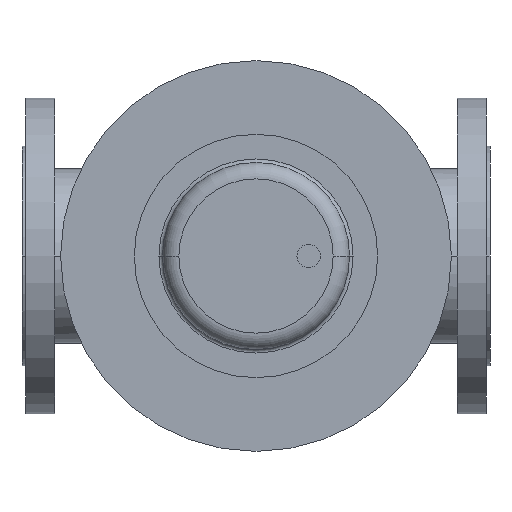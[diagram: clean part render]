
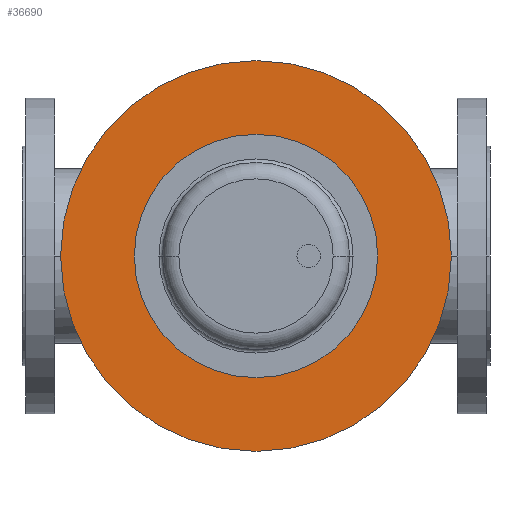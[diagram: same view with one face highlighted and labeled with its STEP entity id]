
A CAD part, front view. The second image highlights one B-rep face of the part: STEP entity #36690.
In plain terms, the highlighted planar face has unit normal (0, -1, 0).
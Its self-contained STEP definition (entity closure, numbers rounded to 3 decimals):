
#14880=CARTESIAN_POINT('',(200.,-457.12,0.));
#14890=DIRECTION('',(0.,-1.,0.));
#14900=DIRECTION('',(1.,0.,0.));
#14910=AXIS2_PLACEMENT_3D('',#14880,#14890,#14900);
#14920=CYLINDRICAL_SURFACE('',#14910,167.);
#14990=CARTESIAN_POINT('',(33.,-464.62,0.));
#15000=VERTEX_POINT('',#14990);
#15010=CARTESIAN_POINT('',(200.,-457.12,0.));
#15020=DIRECTION('',(0.,-1.,0.));
#15030=DIRECTION('',(1.,0.,0.));
#15040=AXIS2_PLACEMENT_3D('',#15010,#15020,#15030);
#15050=CYLINDRICAL_SURFACE('',#15040,167.);
#15280=CARTESIAN_POINT('',(367.,-464.62,0.));
#15290=VERTEX_POINT('',#15280);
#15330=CARTESIAN_POINT('',(200.,-464.62,0.));
#15340=DIRECTION('',(0.,1.,0.));
#15350=DIRECTION('',(1.,0.,0.));
#15360=AXIS2_PLACEMENT_3D('',#15330,#15340,#15350);
#15370=CIRCLE('',#15360,167.);
#15380=CARTESIAN_POINT('',(303.5,-464.62,0.));
#15390=DIRECTION('',(0.,-1.,0.));
#15400=DIRECTION('',(-1.,0.,0.));
#15410=AXIS2_PLACEMENT_3D('',#15380,#15390,#15400);
#15420=PLANE('',#15410);
#15430=SURFACE_CURVE('',#15370,(#15420,#14920),.CURVE_3D.);
#15440=EDGE_CURVE('',#15000,#15290,#15430,.T.);
#15490=CARTESIAN_POINT('',(200.,-465.12,0.));
#15500=DIRECTION('',(-0.,-1.,0.));
#15510=DIRECTION('',(1.,0.,0.));
#15520=AXIS2_PLACEMENT_3D('',#15490,#15500,#15510);
#15530=CYLINDRICAL_SURFACE('',#15520,40.);
#15580=CARTESIAN_POINT('',(240.,-464.62,0.));
#15590=VERTEX_POINT('',#15580);
#15620=CARTESIAN_POINT('',(200.,-465.12,0.));
#15630=DIRECTION('',(-0.,-1.,0.));
#15640=DIRECTION('',(1.,0.,0.));
#15650=AXIS2_PLACEMENT_3D('',#15620,#15630,#15640);
#15660=CYLINDRICAL_SURFACE('',#15650,40.);
#15700=CARTESIAN_POINT('',(200.,-464.62,0.));
#15710=DIRECTION('',(0.,1.,0.));
#15720=DIRECTION('',(1.,0.,0.));
#15730=AXIS2_PLACEMENT_3D('',#15700,#15710,#15720);
#15740=CIRCLE('',#15730,40.);
#15750=CARTESIAN_POINT('',(160.,-464.62,0.));
#15760=VERTEX_POINT('',#15750);
#15770=SURFACE_CURVE('',#15740,(#15530,#15420),.CURVE_3D.);
#15780=EDGE_CURVE('',#15590,#15760,#15770,.T.);
#36570=SURFACE_CURVE('',#15370,(#15420,#15050),.CURVE_3D.);
#36580=EDGE_CURVE('',#15290,#15000,#36570,.T.);
#36590=ORIENTED_EDGE('',*,*,#36580,.F.);
#36600=ORIENTED_EDGE('',*,*,#15440,.F.);
#36610=EDGE_LOOP('',(#36600,#36590));
#36620=FACE_OUTER_BOUND('',#36610,.T.);
#36630=ORIENTED_EDGE('',*,*,#15780,.T.);
#36640=SURFACE_CURVE('',#15740,(#15660,#15420),.CURVE_3D.);
#36650=EDGE_CURVE('',#15760,#15590,#36640,.T.);
#36660=ORIENTED_EDGE('',*,*,#36650,.T.);
#36670=EDGE_LOOP('',(#36660,#36630));
#36680=FACE_BOUND('',#36670,.T.);
#36690=ADVANCED_FACE('',(#36620,#36680),#15420,.T.);
